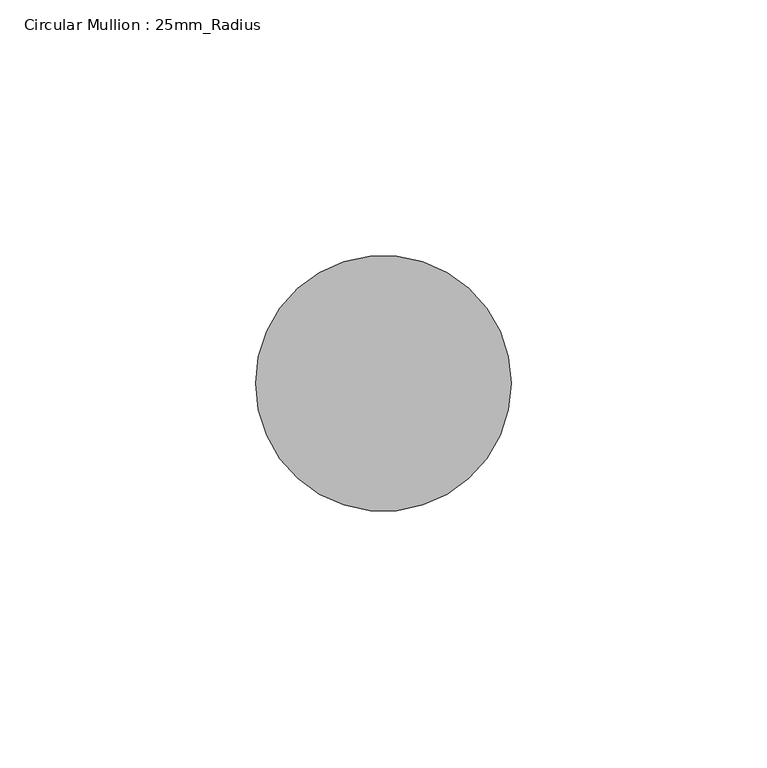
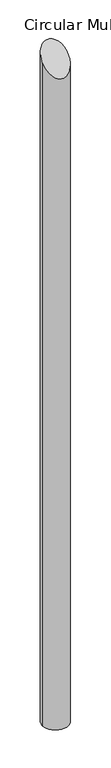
"""IFC4 building model written with IfcOpenShell, lengths in millimetres: member geometry, Circular Mullion : 25mm_Radius."""

import ifcopenshell
import ifcopenshell.guid

model = None  # the IFC model being written
_history = None  # IfcOwnerHistory: only IFC2X3 demands one
_inside = {}  # id of a spatial element -> (the spatial element, [elements in it])
_under = {}  # id of a project, library or spatial element -> (it, [spatial elements below it])
_declared = {}  # id of a project -> (the project, [libraries it declares])
_typed = {}  # id of a type object -> (the type object, [elements of that type])
_made_of = {}  # id of a material, layer set ... -> (it, [elements and type objects made of it])


def new_model(schema):
    """Start an empty IFC model of exactly this schema.

    Asked for "IFC4X3", IfcOpenShell would pick the latest addendum, in which some entities
    have other attributes; the version numbers below select the first issue.
    IFC2X3 requires an IfcOwnerHistory on every rooted entity: one is made here for all.
    """
    global model, _history
    if schema == "IFC4X3":
        model = ifcopenshell.file(schema_version=(4, 3, 0, 0))
    else:
        model = ifcopenshell.file(schema=schema)
    _inside.clear()
    _under.clear()
    _declared.clear()
    _typed.clear()
    _made_of.clear()
    _history = None
    if model.schema == "IFC2X3":
        org = make("IfcOrganization", Name="unknown")
        user = make(
            "IfcPersonAndOrganization",
            ThePerson=make("IfcPerson", FamilyName="unknown"),
            TheOrganization=org,
        )
        app = make(
            "IfcApplication",
            ApplicationDeveloper=org,
            Version="unknown",
            ApplicationFullName="unknown",
            ApplicationIdentifier="unknown",
        )
        _history = make(
            "IfcOwnerHistory",
            OwningUser=user,
            OwningApplication=app,
            ChangeAction="ADDED",
            CreationDate=0,
        )
    return model


def make(cls, **values):
    """One entity of the class cls with the attributes given. An attribute that is None is left unset."""
    return model.create_entity(
        cls, **{name: value for name, value in values.items() if value is not None}
    )


def rooted(cls, **values):
    """An entity with a GlobalId (a new one), such as an element, a storey or a relation."""
    return make(cls, GlobalId=ifcopenshell.guid.new(), OwnerHistory=_history, **values)


def si_unit(unit_type, name, prefix=None):
    """IfcSIUnit, for example si_unit("LENGTHUNIT", "METRE", prefix="MILLI")."""
    return make("IfcSIUnit", UnitType=unit_type, Prefix=prefix, Name=name)


def assignment(units):
    """IfcUnitAssignment: the units of a project."""
    return None if units is None else make("IfcUnitAssignment", Units=units)


def point(xyz):
    """IfcCartesianPoint."""
    return None if xyz is None else make("IfcCartesianPoint", Coordinates=xyz)


def direction(xyz):
    """IfcDirection."""
    return None if xyz is None else make("IfcDirection", DirectionRatios=xyz)


def frame(location, z_axis=None, x_axis=None):
    """IfcAxis2Placement3D, a coordinate frame: its origin and axes. An axis left out is left unset."""
    return make(
        "IfcAxis2Placement3D",
        Location=point(location),
        Axis=direction(z_axis),
        RefDirection=direction(x_axis),
    )


def origin():
    """The frame at (0, 0, 0) with its axes left unset."""
    return frame((0.0, 0.0, 0.0))


def place(relative_to, where):
    """IfcLocalPlacement: puts the frame where relative to a parent placement (None: the world)."""
    return make(
        "IfcLocalPlacement", PlacementRelTo=relative_to, RelativePlacement=where
    )


def context(
    kind, dimensions, precision=None, world=None, true_north=None, identifier=None
):
    """IfcGeometricRepresentationContext, for example the 3D "Model" context."""
    return make(
        "IfcGeometricRepresentationContext",
        ContextIdentifier=identifier,
        ContextType=kind,
        CoordinateSpaceDimension=dimensions,
        Precision=precision,
        WorldCoordinateSystem=world,
        TrueNorth=true_north,
    )


def project(units=None, contexts=None):
    """IfcProject with its units and contexts."""
    return rooted(
        "IfcProject",
        Name="project",
        RepresentationContexts=contexts,
        UnitsInContext=assignment(units),
    )


def spatial(cls, under=None, at=None, **own):
    """A site, building, storey or space (cls), placed at a placement, below another one or the project."""
    s = rooted(cls, ObjectPlacement=at, **own)
    if under is not None:
        _under.setdefault(under.id(), (under, []))[1].append(s)
    return s


def circle_curve(where, radius):
    """IfcCircle in the frame where."""
    return make("IfcCircle", Position=where, Radius=radius)


def ellipse_curve(where, semi_axis1, semi_axis2):
    """IfcEllipse in the frame where."""
    return make(
        "IfcEllipse", Position=where, SemiAxis1=semi_axis1, SemiAxis2=semi_axis2
    )


def shape(context_of_items, identifier, shape_type, items):
    """IfcShapeRepresentation: the items that make up one representation, for example the "Body"."""
    return make(
        "IfcShapeRepresentation",
        ContextOfItems=context_of_items,
        RepresentationIdentifier=identifier,
        RepresentationType=shape_type,
        Items=items,
    )


def source(mapping_origin, context_of_items, identifier, shape_type, items):
    """IfcRepresentationMap: a shape defined once, which mapped items show again and again."""
    return make(
        "IfcRepresentationMap",
        MappingOrigin=mapping_origin,
        MappedRepresentation=shape(context_of_items, identifier, shape_type, items),
    )


def transform(
    local_origin,
    x_axis=None,
    y_axis=None,
    z_axis=None,
    scale=None,
    scale2=None,
    scale3=None,
    uniform=True,
):
    """IfcCartesianTransformationOperator3D, or its non-uniform kind. x_axis, y_axis, z_axis: its Axis1, 2, 3."""
    if uniform:
        return make(
            "IfcCartesianTransformationOperator3D",
            Axis1=direction(x_axis),
            Axis2=direction(y_axis),
            LocalOrigin=point(local_origin),
            Scale=scale,
            Axis3=direction(z_axis),
        )
    return make(
        "IfcCartesianTransformationOperator3DnonUniform",
        Axis1=direction(x_axis),
        Axis2=direction(y_axis),
        LocalOrigin=point(local_origin),
        Scale=scale,
        Axis3=direction(z_axis),
        Scale2=scale2,
        Scale3=scale3,
    )


def mapped(mapping_source, mapping_target):
    """IfcMappedItem: shows the shape of a source again, moved by a transform."""
    return make(
        "IfcMappedItem", MappingSource=mapping_source, MappingTarget=mapping_target
    )


def made_of(thing, what):
    """Note that an element or type object is made of a material, layer set ...; save() writes the relation."""
    if what is not None:
        _made_of.setdefault(what.id(), (what, []))[1].append(thing)
    return thing


def element(
    cls,
    number,
    at=None,
    inside=None,
    cuts=None,
    type_object=None,
    material=None,
    context=None,
    identifier="Body",
    shape_type=None,
    held_by="IfcProductDefinitionShape",
    body=None,
    shapes=None,
    **own,
):
    """One element of the class cls, such as IfcWall. Its Tag is "e" and its number.

    at: its placement. inside: the storey or other place that contains it. cuts: it is an
    opening in that element (IfcRelVoidsElement). A single representation is given by context,
    identifier, shape_type and body (its items); several are given by shapes. held_by: the class
    of the entity that holds the representations. save() writes the other relations.
    """
    e = rooted(cls, Tag="e%d" % number, ObjectPlacement=at, **own)
    if body is not None:
        shapes = [shape(context, identifier, shape_type, body)]
    if shapes is not None:
        e.Representation = make(held_by, Representations=shapes)
    if inside is not None:
        _inside.setdefault(inside.id(), (inside, []))[1].append(e)
    if cuts is not None:
        rooted(
            "IfcRelVoidsElement", RelatingBuildingElement=cuts, RelatedOpeningElement=e
        )
    if type_object is not None:
        _typed.setdefault(type_object.id(), (type_object, []))[1].append(e)
    return made_of(e, material)


def aggregate(whole, parts):
    """IfcRelAggregates: a whole, such as a stair, and the parts it consists of."""
    return rooted("IfcRelAggregates", RelatingObject=whole, RelatedObjects=parts)


def save(model, path):
    """Write the relations noted so far, then the file.

    IfcRelAggregates (storeys below a building ...), IfcRelContainedInSpatialStructure (elements
    in a storey), IfcRelDefinesByType, IfcRelAssociatesMaterial and IfcRelDeclares: one each for
    every whole, place, type object, material and project.
    """
    for whole, parts in _under.values():
        aggregate(whole, parts)
    for where, things in _inside.values():
        rooted(
            "IfcRelContainedInSpatialStructure",
            RelatedElements=things,
            RelatingStructure=where,
        )
    for kind, things in _typed.values():
        rooted("IfcRelDefinesByType", RelatedObjects=things, RelatingType=kind)
    for what, things in _made_of.values():
        rooted("IfcRelAssociatesMaterial", RelatedObjects=things, RelatingMaterial=what)
    for by, libraries in _declared.values():
        rooted("IfcRelDeclares", RelatingContext=by, RelatedDefinitions=libraries)
    model.write(path)


def plane_surface(at):
    """IfcPlane: the flat surface through the origin of the frame at, square to its z axis."""
    return make("IfcPlane", Position=at)


def cylinder_surface(at, radius):
    """IfcCylindricalSurface: all points at the distance radius from the z axis of the frame at."""
    return make("IfcCylindricalSurface", Position=at, Radius=radius)


def advanced_brep(points, edges, surfaces, faces):
    """IfcAdvancedBrep: a solid bounded by faces that lie on surfaces and meet in shared edges.

    An edge is (start, end): straight between two places in points (the first is 0);
    or (start, end, curve); or (start, end, curve, False) where it runs against its curve.
    A face is (place in surfaces, loops), or (place, loops, False) where it looks against
    its surface's normal. A loop lists edges by number (the first is 1), with a minus sign
    where the edge is run from its end to its start. The first loop is the outer one.
    """
    corners = [point(p) for p in points]
    vertices = [make("IfcVertexPoint", VertexGeometry=c) for c in corners]
    made = []
    for start, end, *more in edges:
        made.append(
            make(
                "IfcEdgeCurve",
                EdgeStart=vertices[start],
                EdgeEnd=vertices[end],
                EdgeGeometry=more[0] if more else make("IfcPolyline", Points=[corners[start], corners[end]]),
                SameSense=more[1] if len(more) > 1 else True,
            )
        )
    hull = []
    for where, loops, *sense in faces:
        bounds = []
        for j, loop in enumerate(loops):
            ring = [make("IfcOrientedEdge", EdgeElement=made[abs(k) - 1], Orientation=k > 0) for k in loop]
            bounds.append(
                make(
                    "IfcFaceOuterBound" if j == 0 else "IfcFaceBound",
                    Bound=make("IfcEdgeLoop", EdgeList=ring),
                    Orientation=True,
                )
            )
        hull.append(make("IfcAdvancedFace", Bounds=bounds, FaceSurface=surfaces[where], SameSense=sense[0] if sense else True))
    return make("IfcAdvancedBrep", Outer=make("IfcClosedShell", CfsFaces=hull))


def circular_mullion_25mm_radius_d1e789d9(model_context):
    return source(origin(), model_context, "Body", "AdvancedBrep", [
        advanced_brep(
        [(0.0, 0.0, -1346.7743851), (-50.0, 0.0, -1346.7743851), (-50.0, 0.0, 0.0), (0.0, 0.0, 0.0)],
        [
            (0, 1, circle_curve(frame((-25.0, 0.0, -1346.7743851), z_axis=(0.0, 0.0, -1.0), x_axis=(1.0, 0.0, 0.0)), 25.0)),
            (1, 0, circle_curve(frame((-25.0, 0.0, -1346.7743851), z_axis=(0.0, 0.0, -1.0), x_axis=(1.0, 0.0, 0.0)), 25.0)),
            (2, 3, ellipse_curve(frame((-25.0, 0.0, 0.0), z_axis=(0.0, 0.7071067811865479, -0.7071067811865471), x_axis=(0.0, 0.7071067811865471, 0.7071067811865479)), 35.3553391, 25.0)),
            (3, 0),
            (1, 2),
            (3, 2, ellipse_curve(frame((-25.0, 0.0, 0.0), z_axis=(0.0, 0.7071067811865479, -0.7071067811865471), x_axis=(0.0, 0.7071067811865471, 0.7071067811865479)), 35.3553391, 25.0)),
        ],
        [
            plane_surface(frame((0.0, -50.0, -1346.7743851), z_axis=(0.0, 0.0, -1.0), x_axis=(-1.0, 0.0, 0.0))),
            cylinder_surface(frame((-25.0, 0.0, 0.0), z_axis=(0.0, 0.0, 1.0), x_axis=(1.0, 0.0, 0.0)), 25.0),
            plane_surface(frame((304.8, 0.0, 0.0), z_axis=(0.0, -0.7071067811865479, 0.7071067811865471), x_axis=(0.0, -0.7071067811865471, -0.7071067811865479))),
        ],
        [
            (0, [[1, 2]]),
            (1, [[3, 4, -2, 5]]),
            (1, [[6, -5, -1, -4]]),
            (2, [[-3, -6]]),
        ],
    ),
    ])


if __name__ == "__main__":
    model = new_model("IFC4")
    model_context = context("Model", 3, world=origin())
    ifc_project = project(units=[si_unit("LENGTHUNIT", "METRE", prefix="MILLI")], contexts=[model_context])
    site = spatial("IfcSite", under=ifc_project)
    building = spatial("IfcBuilding", under=site)
    placement = place(None, origin())
    circular_mullion_25mm_radius_shape = circular_mullion_25mm_radius_d1e789d9(model_context)
    element("IfcMember", 1, ObjectType="Circular Mullion : 25mm_Radius", at=placement, inside=building, context=model_context, shape_type="MappedRepresentation", body=[
        mapped(circular_mullion_25mm_radius_shape, transform((0.0, 0.0, 0.0), x_axis=(1.0, 0.0, 0.0), y_axis=(0.0, 1.0, 0.0), z_axis=(0.0, 0.0, 1.0))),
    ])
    save(model, "model.ifc")
